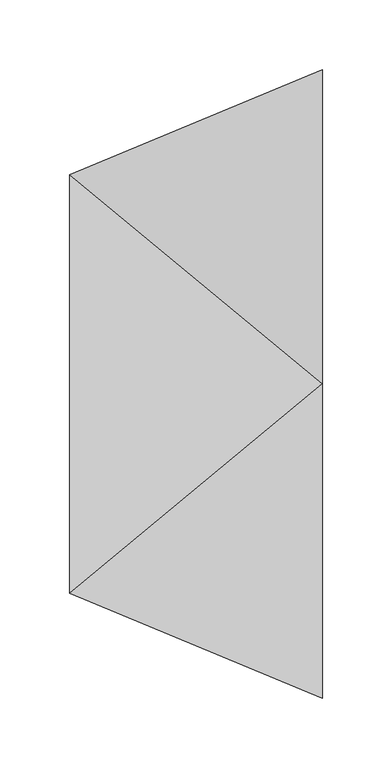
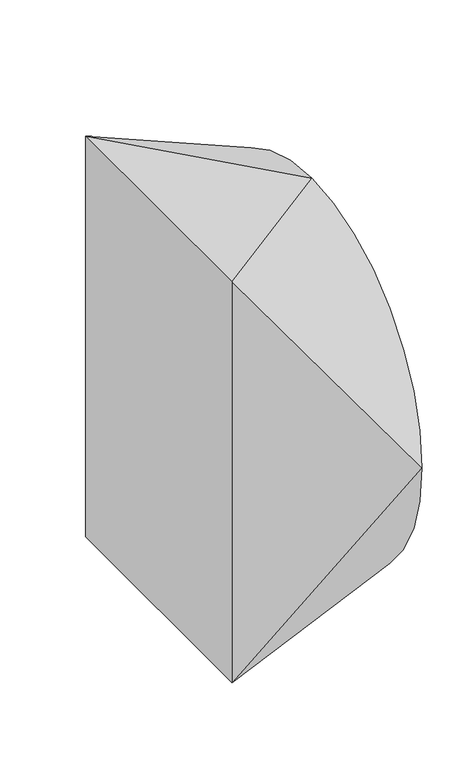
"""IFC4 building model written with IfcOpenShell, lengths in millimetres: duct fitting geometry, M_Transición de rectangular a redondo - Ángulo : EXT_45 graus."""

from ifc_helpers import new_model, si_unit, frame, origin, place, context, project, spatial, circle_curve, source, transform, mapped, element, save
from ifc_brep_helpers import plane_surface, spline_surface, advanced_brep


def duct_fitting_6ef35b37(model_context):
    return source(origin(), model_context, "Body", "AdvancedBrep", [
        advanced_brep(
        [(181.0660172, 0.0, 225.0), (181.0660172, -225.0, 0.0), (181.0660172, 0.0, -225.0), (181.0660172, 225.0, 0.0), (0.0, -150.0, 250.0), (0.0, 150.0, 250.0), (0.0, 150.0, -250.0), (0.0, -150.0, -250.0)],
        [
            (0, 1, circle_curve(frame((181.0660172, 0.0, 0.0), z_axis=(1.0, 0.0, 0.0), x_axis=(0.0, 1.0, 0.0)), 225.0)),
            (1, 2, circle_curve(frame((181.0660172, 0.0, 0.0), z_axis=(1.0, 0.0, 0.0), x_axis=(0.0, 1.0, 0.0)), 225.0)),
            (2, 3, circle_curve(frame((181.0660172, 0.0, 0.0), z_axis=(1.0, 0.0, 0.0), x_axis=(0.0, 1.0, 0.0)), 225.0)),
            (3, 0, circle_curve(frame((181.0660172, 0.0, 0.0), z_axis=(1.0, 0.0, 0.0), x_axis=(0.0, 1.0, 0.0)), 225.0)),
            (4, 5),
            (5, 6),
            (6, 7),
            (7, 4),
            (0, 4),
            (4, 1),
            (7, 1),
            (7, 2),
            (6, 2),
            (6, 3),
            (5, 3),
            (5, 0),
        ],
        [
            plane_surface(frame((181.0660172, 0.0, 0.0), z_axis=(1.0, 0.0, 0.0), x_axis=(0.0, 0.0, -1.0))),
            plane_surface(frame((0.0, 0.0, 0.0), z_axis=(-1.0, 0.0, 0.0), x_axis=(0.0, 0.0, -1.0))),
            spline_surface(2, 1, [[(0.0, -150.0, 250.0), (181.0660172, 0.0, 225.0)], [(0.0, -150.0, 250.0), (181.0660172, -225.0, 225.0)], [(0.0, -150.0, 250.0), (181.0660172, -225.0, 0.0)]], [3, 3], [2, 2], [0.0, 1.0], [0.0, 1.0], weights=[[1.0, 1.0], [0.7071067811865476, 0.7071067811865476], [1.0, 1.0]]),
            plane_surface(frame((0.0, -150.0, 0.0), z_axis=(-0.3826834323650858, -0.9238795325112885, 0.0), x_axis=(0.0, 0.0, -1.0))),
            spline_surface(2, 1, [[(0.0, -150.0, -250.0), (181.0660172, -225.0, 0.0)], [(0.0, -150.0, -250.0), (181.0660172, -225.0, -225.0)], [(0.0, -150.0, -250.0), (181.0660172, 0.0, -225.0)]], [3, 3], [2, 2], [0.0, 1.0], [0.0, 1.0], weights=[[1.0, 1.0], [0.7071067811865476, 0.7071067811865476], [1.0, 1.0]]),
            plane_surface(frame((0.0, 0.0, -250.0), z_axis=(0.13677363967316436, 0.0, -0.9906023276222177), x_axis=(0.0, 1.0, 0.0))),
            spline_surface(2, 1, [[(0.0, 150.0, -250.0), (181.0660172, 0.0, -225.0)], [(0.0, 150.0, -250.0), (181.0660172, 225.0, -225.0)], [(0.0, 150.0, -250.0), (181.0660172, 225.0, 0.0)]], [3, 3], [2, 2], [0.0, 1.0], [0.0, 1.0], weights=[[1.0, 1.0], [0.7071067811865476, 0.7071067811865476], [1.0, 1.0]]),
            plane_surface(frame((0.0, 150.0, 0.0), z_axis=(-0.3826834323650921, 0.9238795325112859, 0.0), x_axis=(0.0, 0.0, 1.0))),
            spline_surface(2, 1, [[(0.0, 150.0, 250.0), (181.0660172, 225.0, 0.0)], [(0.0, 150.0, 250.0), (181.0660172, 225.0, 225.0)], [(0.0, 150.0, 250.0), (181.0660172, 0.0, 225.0)]], [3, 3], [2, 2], [0.0, 1.0], [0.0, 1.0], weights=[[1.0, 1.0], [0.7071067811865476, 0.7071067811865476], [1.0, 1.0]]),
            plane_surface(frame((0.0, 0.0, 250.0), z_axis=(0.136773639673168, 0.0, 0.9906023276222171), x_axis=(0.0, -1.0, 0.0))),
        ],
        [
            (0, [[1, 2, 3, 4]]),
            (1, [[5, 6, 7, 8]]),
            (2, [[-1, 9, 10]]),
            (3, [[-8, 11, -10]]),
            (4, [[-2, -11, 12]]),
            (5, [[-7, 13, -12]]),
            (6, [[-3, -13, 14]]),
            (7, [[-6, 15, -14]]),
            (8, [[-4, -15, 16]]),
            (9, [[-5, -9, -16]]),
        ],
    ),
    ])


if __name__ == "__main__":
    model = new_model("IFC4")
    model_context = context("Model", 3, world=origin())
    ifc_project = project(units=[si_unit("LENGTHUNIT", "METRE", prefix="MILLI")], contexts=[model_context])
    site = spatial("IfcSite", under=ifc_project)
    building = spatial("IfcBuilding", under=site)
    placement = place(None, origin())
    duct_fitting_shape = duct_fitting_6ef35b37(model_context)
    element("IfcDuctFitting", 1, ObjectType="M_Transición de rectangular a redondo - Ángulo : EXT_45 graus", at=placement, inside=building, context=model_context, shape_type="MappedRepresentation", body=[
        mapped(duct_fitting_shape, transform((0.0, 0.0, 0.0), x_axis=(1.0, 0.0, 0.0), y_axis=(0.0, 1.0, 0.0), z_axis=(0.0, 0.0, 1.0))),
    ])
    save(model, "model.ifc")
